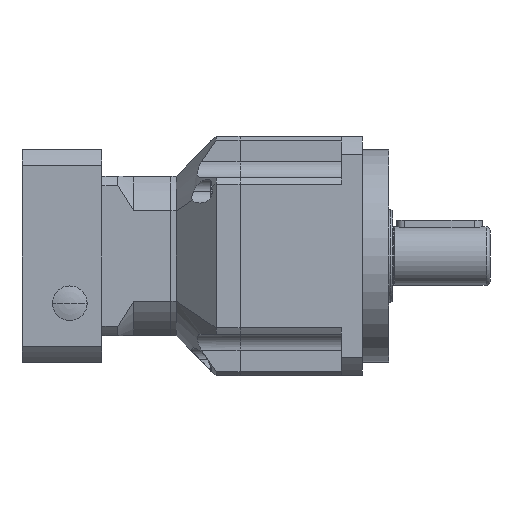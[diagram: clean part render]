
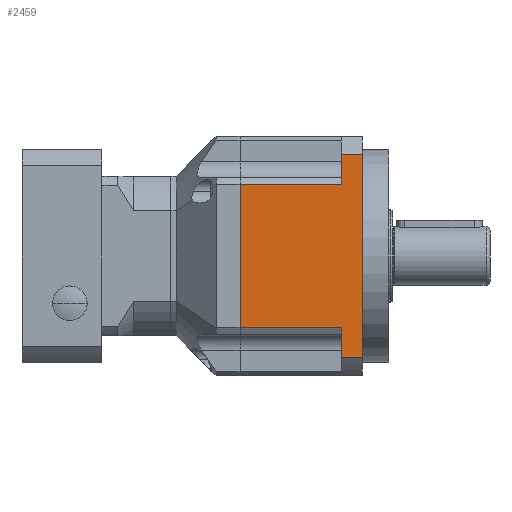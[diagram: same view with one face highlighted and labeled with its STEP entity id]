
A CAD part, front view. The second image highlights one B-rep face of the part: STEP entity #2459.
In plain terms, the highlighted planar face has unit normal (0, -1, 0).
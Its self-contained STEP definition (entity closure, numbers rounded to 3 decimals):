
#240 = DIRECTION ( 'NONE',  ( 1., 0., 0. ) ) ;
#264 = VECTOR ( 'NONE', #14459, 1000. ) ;
#281 = VECTOR ( 'NONE', #11179, 1000. ) ;
#309 = ORIENTED_EDGE ( 'NONE', *, *, #10698, .F. ) ;
#652 = CARTESIAN_POINT ( 'NONE',  ( 38., -45., -27.042 ) ) ;
#960 = CARTESIAN_POINT ( 'NONE',  ( 0., -45., -38.158 ) ) ;
#1025 = CARTESIAN_POINT ( 'NONE',  ( 0., -45., 27.042 ) ) ;
#1301 = EDGE_CURVE ( 'NONE', #9633, #12207, #8052, .T. ) ;
#1373 = DIRECTION ( 'NONE',  ( 0., 0., 1. ) ) ;
#1548 = LINE ( 'NONE', #4355, #12183 ) ;
#1619 = CARTESIAN_POINT ( 'NONE',  ( 0., -45., 27.042 ) ) ;
#1675 = CARTESIAN_POINT ( 'NONE',  ( 38., -45., 27.042 ) ) ;
#2355 = FACE_OUTER_BOUND ( 'NONE', #11075, .T. ) ;
#2405 = EDGE_CURVE ( 'NONE', #7675, #11962, #10496, .T. ) ;
#2459 = ADVANCED_FACE ( 'NONE', ( #2355 ), #17797, .T. ) ;
#2863 = CARTESIAN_POINT ( 'NONE',  ( 46., -45., 0. ) ) ;
#4171 = LINE ( 'NONE', #6860, #281 ) ;
#4189 = VECTOR ( 'NONE', #1373, 1000. ) ;
#4311 = ORIENTED_EDGE ( 'NONE', *, *, #1301, .F. ) ;
#4355 = CARTESIAN_POINT ( 'NONE',  ( 0., -45., -27.042 ) ) ;
#5083 = ORIENTED_EDGE ( 'NONE', *, *, #17762, .T. ) ;
#5536 = VECTOR ( 'NONE', #13197, 1000. ) ;
#6124 = CARTESIAN_POINT ( 'NONE',  ( 0., -45., -27.042 ) ) ;
#6848 = DIRECTION ( 'NONE',  ( 0., -1., 0. ) ) ;
#6860 = CARTESIAN_POINT ( 'NONE',  ( 38., -45., 0. ) ) ;
#7212 = VERTEX_POINT ( 'NONE', #1675 ) ;
#7615 = VECTOR ( 'NONE', #13626, 1000. ) ;
#7675 = VERTEX_POINT ( 'NONE', #14339 ) ;
#8052 = LINE ( 'NONE', #12017, #7615 ) ;
#9261 = VERTEX_POINT ( 'NONE', #13407 ) ;
#9394 = ORIENTED_EDGE ( 'NONE', *, *, #9902, .F. ) ;
#9626 = CARTESIAN_POINT ( 'NONE',  ( 46., -45., -38.158 ) ) ;
#9633 = VERTEX_POINT ( 'NONE', #6124 ) ;
#9784 = LINE ( 'NONE', #1619, #5536 ) ;
#9902 = EDGE_CURVE ( 'NONE', #13585, #9261, #15073, .T. ) ;
#10496 = LINE ( 'NONE', #16207, #17791 ) ;
#10698 = EDGE_CURVE ( 'NONE', #7212, #7675, #18686, .T. ) ;
#11075 = EDGE_LOOP ( 'NONE', ( #4311, #15501, #11245, #9394, #5083, #12374, #309, #18571 ) ) ;
#11110 = EDGE_CURVE ( 'NONE', #9261, #13130, #4171, .T. ) ;
#11179 = DIRECTION ( 'NONE',  ( 0., 0., 1. ) ) ;
#11245 = ORIENTED_EDGE ( 'NONE', *, *, #11110, .F. ) ;
#11853 = EDGE_CURVE ( 'NONE', #12207, #7212, #9784, .T. ) ;
#11962 = VERTEX_POINT ( 'NONE', #13459 ) ;
#12017 = CARTESIAN_POINT ( 'NONE',  ( 0., -45., -45. ) ) ;
#12183 = VECTOR ( 'NONE', #12989, 1000. ) ;
#12207 = VERTEX_POINT ( 'NONE', #1025 ) ;
#12374 = ORIENTED_EDGE ( 'NONE', *, *, #2405, .F. ) ;
#12537 = DIRECTION ( 'NONE',  ( -1., 0., 0. ) ) ;
#12921 = AXIS2_PLACEMENT_3D ( 'NONE', #14870, #6848, #16972 ) ;
#12989 = DIRECTION ( 'NONE',  ( -1., 0., 0. ) ) ;
#13130 = VERTEX_POINT ( 'NONE', #652 ) ;
#13197 = DIRECTION ( 'NONE',  ( 1., 0., 0. ) ) ;
#13407 = CARTESIAN_POINT ( 'NONE',  ( 38., -45., -38.158 ) ) ;
#13459 = CARTESIAN_POINT ( 'NONE',  ( 46., -45., 38.158 ) ) ;
#13585 = VERTEX_POINT ( 'NONE', #9626 ) ;
#13626 = DIRECTION ( 'NONE',  ( 0., 0., 1. ) ) ;
#13743 = EDGE_CURVE ( 'NONE', #13130, #9633, #1548, .T. ) ;
#14339 = CARTESIAN_POINT ( 'NONE',  ( 38., -45., 38.158 ) ) ;
#14459 = DIRECTION ( 'NONE',  ( 0., 0., 1. ) ) ;
#14870 = CARTESIAN_POINT ( 'NONE',  ( 56., -45., -45. ) ) ;
#15073 = LINE ( 'NONE', #960, #18494 ) ;
#15501 = ORIENTED_EDGE ( 'NONE', *, *, #13743, .F. ) ;
#15697 = LINE ( 'NONE', #2863, #264 ) ;
#16207 = CARTESIAN_POINT ( 'NONE',  ( 0., -45., 38.158 ) ) ;
#16972 = DIRECTION ( 'NONE',  ( 0., 0., -1. ) ) ;
#17762 = EDGE_CURVE ( 'NONE', #13585, #11962, #15697, .T. ) ;
#17791 = VECTOR ( 'NONE', #240, 1000. ) ;
#17797 = PLANE ( 'NONE',  #12921 ) ;
#18494 = VECTOR ( 'NONE', #12537, 1000. ) ;
#18571 = ORIENTED_EDGE ( 'NONE', *, *, #11853, .F. ) ;
#18686 = LINE ( 'NONE', #18739, #4189 ) ;
#18739 = CARTESIAN_POINT ( 'NONE',  ( 38., -45., 0. ) ) ;
